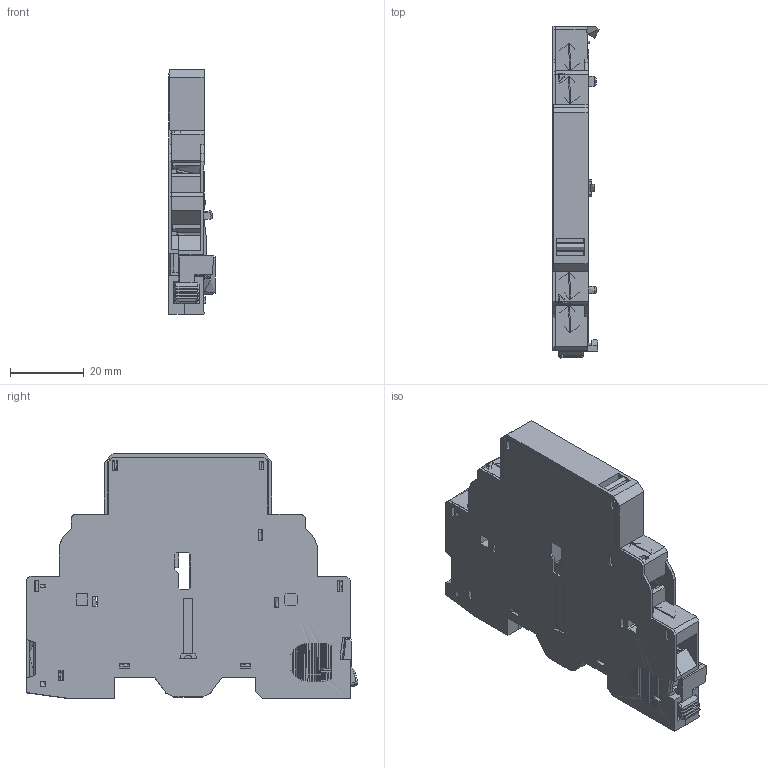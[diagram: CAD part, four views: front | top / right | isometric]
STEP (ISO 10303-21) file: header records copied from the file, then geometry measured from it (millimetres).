
FILE_DESCRIPTION (( 'STEP AP214' ), '1' );
FILE_NAME ('AS.STEP', '2026-01-30T11:53:11', ( '' ), ( '' ), 'SwSTEP 2.0', 'SolidWorks 2024', '' );
FILE_SCHEMA (( 'AUTOMOTIVE_DESIGN' ));
Length unit declared in the file: millimetre
Products named in the file (5): AS; AS.STEP; ________-0_1.STEP; ________-1_1.STEP; _________3.STEP
Assembly tree (4 placements, depth 3):
  AS
    AS.STEP
      _________3.STEP
      ________-0_1.STEP
      ________-1_1.STEP
Bounding box: 12.58 x 90.14 x 66.51 mm (x, y, z)
Topology: 0 solids, 6 shells, 1779 faces, 4963 edges, 3196 vertices
Faces by surface type: plane 1339, cylinder 347, cone 60, bspline 33
Entity records: 66525 total; most frequent: CARTESIAN_POINT 30953, ORIENTED_EDGE 9801, EDGE_CURVE 4938, B_SPLINE_CURVE_WITH_KNOTS 4912, DIRECTION 3508, VERTEX_POINT 3196, EDGE_LOOP 1912, ADVANCED_FACE 1779
